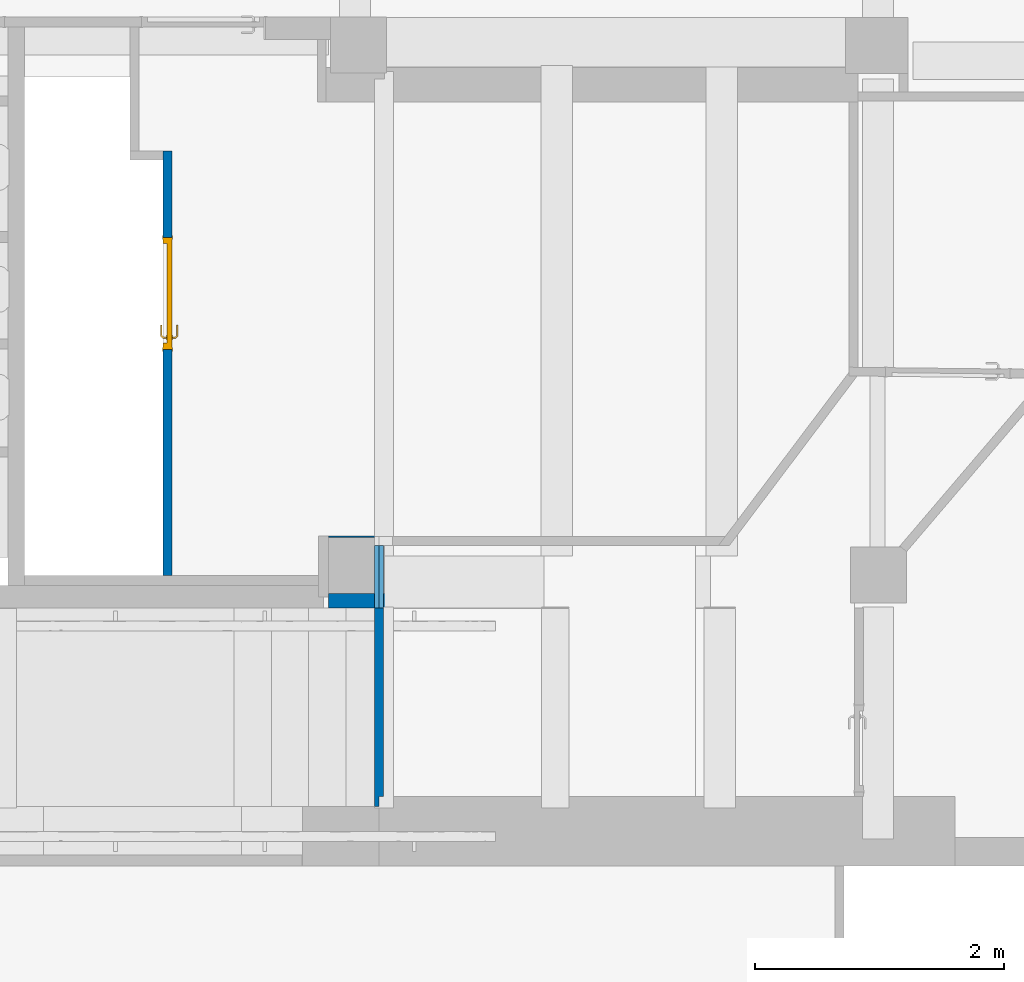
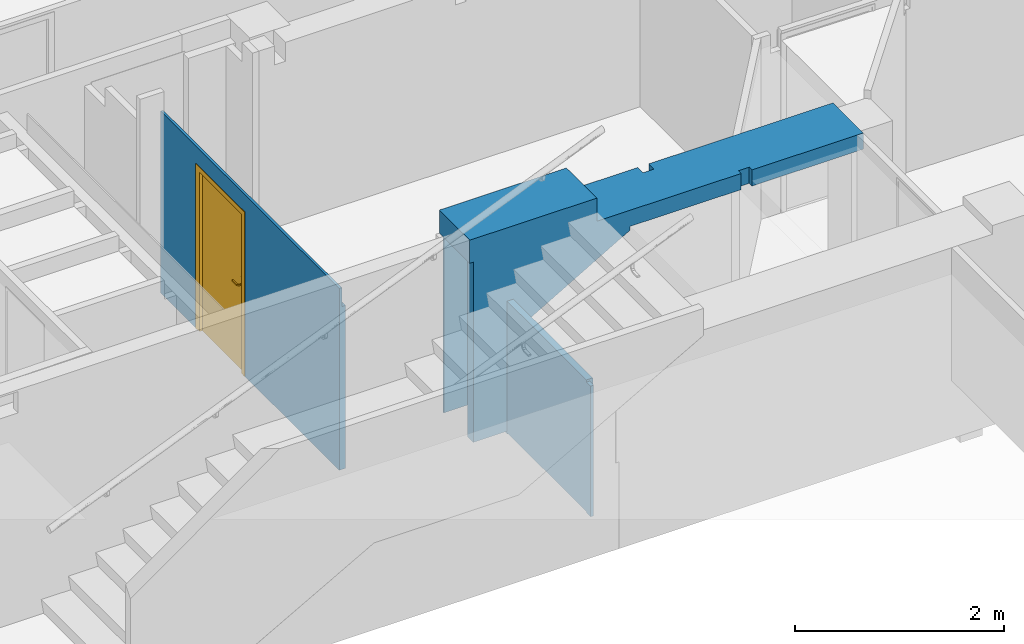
# One storey, part 20 of 32: 3 walls, 1 door, 1 opening.
"""IFC4 building model written with IfcOpenShell, lengths in metres."""

import ifcopenshell
import ifcopenshell.guid

model = None  # the IFC model being written
_history = None  # IfcOwnerHistory: only IFC2X3 demands one
_inside = {}  # id of a spatial element -> (the spatial element, [elements in it])
_under = {}  # id of a project, library or spatial element -> (it, [spatial elements below it])
_declared = {}  # id of a project -> (the project, [libraries it declares])
_typed = {}  # id of a type object -> (the type object, [elements of that type])
_made_of = {}  # id of a material, layer set ... -> (it, [elements and type objects made of it])


def new_model(schema):
    """Start an empty IFC model of exactly this schema.

    Asked for "IFC4X3", IfcOpenShell would pick the latest addendum, in which some entities
    have other attributes; the version numbers below select the first issue.
    IFC2X3 requires an IfcOwnerHistory on every rooted entity: one is made here for all.
    """
    global model, _history
    if schema == "IFC4X3":
        model = ifcopenshell.file(schema_version=(4, 3, 0, 0))
    else:
        model = ifcopenshell.file(schema=schema)
    _inside.clear()
    _under.clear()
    _declared.clear()
    _typed.clear()
    _made_of.clear()
    _history = None
    if model.schema == "IFC2X3":
        org = make("IfcOrganization", Name="unknown")
        user = make(
            "IfcPersonAndOrganization",
            ThePerson=make("IfcPerson", FamilyName="unknown"),
            TheOrganization=org,
        )
        app = make(
            "IfcApplication",
            ApplicationDeveloper=org,
            Version="unknown",
            ApplicationFullName="unknown",
            ApplicationIdentifier="unknown",
        )
        _history = make(
            "IfcOwnerHistory",
            OwningUser=user,
            OwningApplication=app,
            ChangeAction="ADDED",
            CreationDate=0,
        )
    return model


def make(cls, **values):
    """One entity of the class cls with the attributes given. An attribute that is None is left unset."""
    return model.create_entity(
        cls, **{name: value for name, value in values.items() if value is not None}
    )


def entity(cls, *values):
    """Any entity or typed value of the class cls, its attributes in the order of the schema. None: left unset."""
    e = model.create_entity(cls)
    for i, value in enumerate(values):
        if value is not None:
            e[i] = value
    return e


def rooted(cls, **values):
    """An entity with a GlobalId (a new one), such as an element, a storey or a relation."""
    return make(cls, GlobalId=ifcopenshell.guid.new(), OwnerHistory=_history, **values)


def si_unit(unit_type, name, prefix=None):
    """IfcSIUnit, for example si_unit("LENGTHUNIT", "METRE", prefix="MILLI")."""
    return make("IfcSIUnit", UnitType=unit_type, Prefix=prefix, Name=name)


def converted_unit(unit_type, name, factor, base, dimensions=None, offset=None):
    """IfcConversionBasedUnit, such as the inch: factor (a typed value) times the base unit."""
    return make(
        "IfcConversionBasedUnit"
        if offset is None
        else "IfcConversionBasedUnitWithOffset",
        ConversionOffset=offset,
        Dimensions=None
        if dimensions is None
        else entity("IfcDimensionalExponents", *dimensions),
        UnitType=unit_type,
        Name=name,
        ConversionFactor=make(
            "IfcMeasureWithUnit", ValueComponent=factor, UnitComponent=base
        ),
    )


def derived_unit(unit_type, elements):
    """IfcDerivedUnit: a product of units, each with its exponent."""
    return make(
        "IfcDerivedUnit",
        Elements=[
            make("IfcDerivedUnitElement", Unit=unit, Exponent=power)
            for unit, power in elements
        ],
        UnitType=unit_type,
    )


def assignment(units):
    """IfcUnitAssignment: the units of a project."""
    return None if units is None else make("IfcUnitAssignment", Units=units)


def point(xyz):
    """IfcCartesianPoint."""
    return None if xyz is None else make("IfcCartesianPoint", Coordinates=xyz)


def direction(xyz):
    """IfcDirection."""
    return None if xyz is None else make("IfcDirection", DirectionRatios=xyz)


def frame(location, z_axis=None, x_axis=None):
    """IfcAxis2Placement3D, a coordinate frame: its origin and axes. An axis left out is left unset."""
    return make(
        "IfcAxis2Placement3D",
        Location=point(location),
        Axis=direction(z_axis),
        RefDirection=direction(x_axis),
    )


def origin():
    """The frame at (0, 0, 0) with its axes left unset."""
    return frame((0.0, 0.0, 0.0))


def place(relative_to, where):
    """IfcLocalPlacement: puts the frame where relative to a parent placement (None: the world)."""
    return make(
        "IfcLocalPlacement", PlacementRelTo=relative_to, RelativePlacement=where
    )


def context(
    kind, dimensions, precision=None, world=None, true_north=None, identifier=None
):
    """IfcGeometricRepresentationContext, for example the 3D "Model" context."""
    return make(
        "IfcGeometricRepresentationContext",
        ContextIdentifier=identifier,
        ContextType=kind,
        CoordinateSpaceDimension=dimensions,
        Precision=precision,
        WorldCoordinateSystem=world,
        TrueNorth=true_north,
    )


def subcontext(parent, identifier, kind, view, scale=None):
    """IfcGeometricRepresentationSubContext, for example "Body" below "Model"."""
    return make(
        "IfcGeometricRepresentationSubContext",
        ContextIdentifier=identifier,
        ContextType=kind,
        ParentContext=parent,
        TargetScale=scale,
        TargetView=view,
    )


def project(units=None, contexts=None):
    """IfcProject with its units and contexts."""
    return rooted(
        "IfcProject",
        Name="project",
        RepresentationContexts=contexts,
        UnitsInContext=assignment(units),
    )


def spatial(cls, under=None, at=None, **own):
    """A site, building, storey or space (cls), placed at a placement, below another one or the project."""
    s = rooted(cls, ObjectPlacement=at, **own)
    if under is not None:
        _under.setdefault(under.id(), (under, []))[1].append(s)
    return s


def point_list(points):
    """IfcCartesianPointList2D or 3D."""
    cls = (
        "IfcCartesianPointList2D" if len(points[0]) == 2 else "IfcCartesianPointList3D"
    )
    return make(cls, CoordList=points)


def indexed_curve(points, segments=None, self_intersect=None):
    """IfcIndexedPolyCurve: lines and arcs through numbered points (the first is 1)."""
    return make(
        "IfcIndexedPolyCurve",
        Points=point_list(points),
        Segments=segments,
        SelfIntersect=self_intersect,
    )


def outline(outer, holes=None, kind="AREA"):
    """IfcArbitraryClosedProfileDef: a profile drawn as a closed curve; with holes, ...WithVoids."""
    if holes is None:
        return make("IfcArbitraryClosedProfileDef", ProfileType=kind, OuterCurve=outer)
    return make(
        "IfcArbitraryProfileDefWithVoids",
        ProfileType=kind,
        OuterCurve=outer,
        InnerCurves=holes,
    )


def extrude(swept, where, along, depth):
    """IfcExtrudedAreaSolid: the profile swept, set in the frame where, extruded along a direction by depth."""
    return make(
        "IfcExtrudedAreaSolid",
        SweptArea=swept,
        Position=where,
        ExtrudedDirection=direction(along),
        Depth=depth,
    )


def polygons(points, faces, closed=None, point_numbers=None):
    """IfcPolygonalFaceSet: a face is its outer loop, then its inner loops; points numbered from 1."""
    made = []
    for loops in faces:
        if len(loops) == 1:
            made.append(make("IfcIndexedPolygonalFace", CoordIndex=loops[0]))
        else:
            made.append(
                make(
                    "IfcIndexedPolygonalFaceWithVoids",
                    CoordIndex=loops[0],
                    InnerCoordIndices=loops[1:],
                )
            )
    return make(
        "IfcPolygonalFaceSet",
        Coordinates=point_list(points),
        Closed=closed,
        Faces=made,
        PnIndex=point_numbers,
    )


def shape(context_of_items, identifier, shape_type, items):
    """IfcShapeRepresentation: the items that make up one representation, for example the "Body"."""
    return make(
        "IfcShapeRepresentation",
        ContextOfItems=context_of_items,
        RepresentationIdentifier=identifier,
        RepresentationType=shape_type,
        Items=items,
    )


def source(mapping_origin, context_of_items, identifier, shape_type, items):
    """IfcRepresentationMap: a shape defined once, which mapped items show again and again."""
    return make(
        "IfcRepresentationMap",
        MappingOrigin=mapping_origin,
        MappedRepresentation=shape(context_of_items, identifier, shape_type, items),
    )


def transform(
    local_origin,
    x_axis=None,
    y_axis=None,
    z_axis=None,
    scale=None,
    scale2=None,
    scale3=None,
    uniform=True,
):
    """IfcCartesianTransformationOperator3D, or its non-uniform kind. x_axis, y_axis, z_axis: its Axis1, 2, 3."""
    if uniform:
        return make(
            "IfcCartesianTransformationOperator3D",
            Axis1=direction(x_axis),
            Axis2=direction(y_axis),
            LocalOrigin=point(local_origin),
            Scale=scale,
            Axis3=direction(z_axis),
        )
    return make(
        "IfcCartesianTransformationOperator3DnonUniform",
        Axis1=direction(x_axis),
        Axis2=direction(y_axis),
        LocalOrigin=point(local_origin),
        Scale=scale,
        Axis3=direction(z_axis),
        Scale2=scale2,
        Scale3=scale3,
    )


def mapped(mapping_source, mapping_target):
    """IfcMappedItem: shows the shape of a source again, moved by a transform."""
    return make(
        "IfcMappedItem", MappingSource=mapping_source, MappingTarget=mapping_target
    )


def material(Name=None, Category=None):
    """IfcMaterial."""
    return make("IfcMaterial", Name=Name, Category=Category)


def material_list(materials):
    """IfcMaterialList."""
    return make("IfcMaterialList", Materials=materials)


def layer(
    of_material, thickness, ventilated=None, Name=None, Category=None, Priority=None
):
    """IfcMaterialLayer: one layer of a wall or slab, of a material (None: an air gap)."""
    return make(
        "IfcMaterialLayer",
        Material=of_material,
        LayerThickness=thickness,
        IsVentilated=ventilated,
        Name=Name,
        Category=Category,
        Priority=Priority,
    )


def layer_set(layers, Name=None):
    """IfcMaterialLayerSet."""
    return make("IfcMaterialLayerSet", MaterialLayers=layers, LayerSetName=Name)


def constituent(of_material, Name=None, Category=None, fraction=None):
    """IfcMaterialConstituent: one of the materials an element consists of."""
    return make(
        "IfcMaterialConstituent",
        Name=Name,
        Material=of_material,
        Fraction=fraction,
        Category=Category,
    )


def constituent_set(constituents=None, Name=None):
    """IfcMaterialConstituentSet."""
    return make(
        "IfcMaterialConstituentSet", Name=Name, MaterialConstituents=constituents
    )


def made_of(thing, what):
    """Note that an element or type object is made of a material, layer set ...; save() writes the relation."""
    if what is not None:
        _made_of.setdefault(what.id(), (what, []))[1].append(thing)
    return thing


def type_object(cls, material=None, **own):
    """A type object (cls), such as IfcWallType, which elements share."""
    return made_of(rooted(cls, **own), material)


def type_shapes(of_type, sources):
    """Give a type object the sources (RepresentationMaps) that its elements show as mapped items."""
    of_type.RepresentationMaps = sources


def element(
    cls,
    number,
    at=None,
    inside=None,
    cuts=None,
    type_object=None,
    material=None,
    context=None,
    identifier="Body",
    shape_type=None,
    held_by="IfcProductDefinitionShape",
    body=None,
    shapes=None,
    **own,
):
    """One element of the class cls, such as IfcWall. Its Tag is "e" and its number.

    at: its placement. inside: the storey or other place that contains it. cuts: it is an
    opening in that element (IfcRelVoidsElement). A single representation is given by context,
    identifier, shape_type and body (its items); several are given by shapes. held_by: the class
    of the entity that holds the representations. save() writes the other relations.
    """
    e = rooted(cls, Tag="e%d" % number, ObjectPlacement=at, **own)
    if body is not None:
        shapes = [shape(context, identifier, shape_type, body)]
    if shapes is not None:
        e.Representation = make(held_by, Representations=shapes)
    if inside is not None:
        _inside.setdefault(inside.id(), (inside, []))[1].append(e)
    if cuts is not None:
        rooted(
            "IfcRelVoidsElement", RelatingBuildingElement=cuts, RelatedOpeningElement=e
        )
    if type_object is not None:
        _typed.setdefault(type_object.id(), (type_object, []))[1].append(e)
    return made_of(e, material)


def fill(opening, filler):
    """IfcRelFillsElement: the door or window that sits in an opening."""
    return rooted(
        "IfcRelFillsElement",
        RelatingOpeningElement=opening,
        RelatedBuildingElement=filler,
    )


def aggregate(whole, parts):
    """IfcRelAggregates: a whole, such as a stair, and the parts it consists of."""
    return rooted("IfcRelAggregates", RelatingObject=whole, RelatedObjects=parts)


def save(model, path):
    """Write the relations noted so far, then the file.

    IfcRelAggregates (storeys below a building ...), IfcRelContainedInSpatialStructure (elements
    in a storey), IfcRelDefinesByType, IfcRelAssociatesMaterial and IfcRelDeclares: one each for
    every whole, place, type object, material and project.
    """
    for whole, parts in _under.values():
        aggregate(whole, parts)
    for where, things in _inside.values():
        rooted(
            "IfcRelContainedInSpatialStructure",
            RelatedElements=things,
            RelatingStructure=where,
        )
    for kind, things in _typed.values():
        rooted("IfcRelDefinesByType", RelatedObjects=things, RelatingType=kind)
    for what, things in _made_of.values():
        rooted("IfcRelAssociatesMaterial", RelatedObjects=things, RelatingMaterial=what)
    for by, libraries in _declared.values():
        rooted("IfcRelDeclares", RelatingContext=by, RelatedDefinitions=libraries)
    model.write(path)


model = new_model("IFC4")

# Units and contexts
model_context = context("Model", 3, precision=1e-05, world=origin(), true_north=direction((6.12303176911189e-17, 1.0)))
body_context = subcontext(model_context, "Body", "Model", "MODEL_VIEW")
ifc_project = project(units=[si_unit("LENGTHUNIT", "METRE"), si_unit("AREAUNIT", "SQUARE_METRE"), si_unit("VOLUMEUNIT", "CUBIC_METRE"), converted_unit("PLANEANGLEUNIT", "DEGREE", entity("IfcRatioMeasure", 0.0174532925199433), si_unit("PLANEANGLEUNIT", "RADIAN"), dimensions=[0, 0, 0, 0, 0, 0, 0]), si_unit("MASSUNIT", "GRAM", prefix="KILO"), derived_unit("MASSDENSITYUNIT", [(si_unit("MASSUNIT", "GRAM", prefix="KILO"), 1), (si_unit("LENGTHUNIT", "METRE"), -3)]), derived_unit("MOMENTOFINERTIAUNIT", [(si_unit("LENGTHUNIT", "METRE"), 4)]), si_unit("TIMEUNIT", "SECOND"), si_unit("FREQUENCYUNIT", "HERTZ"), si_unit("THERMODYNAMICTEMPERATUREUNIT", "DEGREE_CELSIUS"), derived_unit("THERMALTRANSMITTANCEUNIT", [(si_unit("MASSUNIT", "GRAM", prefix="KILO"), 1), (si_unit("THERMODYNAMICTEMPERATUREUNIT", "KELVIN"), -1), (si_unit("TIMEUNIT", "SECOND"), -3)]), derived_unit("VOLUMETRICFLOWRATEUNIT", [(si_unit("LENGTHUNIT", "METRE"), 3), (si_unit("TIMEUNIT", "SECOND"), -1)]), si_unit("ELECTRICCURRENTUNIT", "AMPERE"), si_unit("ELECTRICVOLTAGEUNIT", "VOLT"), si_unit("POWERUNIT", "WATT"), si_unit("FORCEUNIT", "NEWTON", prefix="KILO"), si_unit("ILLUMINANCEUNIT", "LUX"), si_unit("LUMINOUSFLUXUNIT", "LUMEN"), si_unit("LUMINOUSINTENSITYUNIT", "CANDELA"), derived_unit("USERDEFINED", [(si_unit("MASSUNIT", "GRAM", prefix="KILO"), -1), (si_unit("LENGTHUNIT", "METRE"), -2), (si_unit("TIMEUNIT", "SECOND"), 3), (si_unit("LUMINOUSFLUXUNIT", "LUMEN"), 1)]), derived_unit("LINEARVELOCITYUNIT", [(si_unit("LENGTHUNIT", "METRE"), 1), (si_unit("TIMEUNIT", "SECOND"), -1)]), si_unit("PRESSUREUNIT", "PASCAL"), derived_unit("USERDEFINED", [(si_unit("LENGTHUNIT", "METRE"), -2), (si_unit("MASSUNIT", "GRAM", prefix="KILO"), 1), (si_unit("TIMEUNIT", "SECOND"), -2)]), derived_unit("LINEARFORCEUNIT", [(si_unit("MASSUNIT", "GRAM", prefix="KILO"), 1), (si_unit("LENGTHUNIT", "METRE"), 1), (si_unit("TIMEUNIT", "SECOND"), -2), (si_unit("LENGTHUNIT", "METRE"), -1)]), derived_unit("PLANARFORCEUNIT", [(si_unit("MASSUNIT", "GRAM", prefix="KILO"), 1), (si_unit("LENGTHUNIT", "METRE"), 1), (si_unit("TIMEUNIT", "SECOND"), -2), (si_unit("LENGTHUNIT", "METRE"), -2)])], contexts=[model_context])

# Site, building, storey
site_placement = place(None, origin())
site = spatial("IfcSite", under=ifc_project, at=site_placement, Name="Default", CompositionType="ELEMENT")
building_placement = place(site_placement, origin())
building = spatial("IfcBuilding", under=site, at=building_placement, Name="HOTEL CONSULAIRE BOULOGNE SUR MER", CompositionType="ELEMENT")
storey_placement = place(building_placement, frame((0.0, 0.0, -2.70343668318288)))
storey = spatial("IfcBuildingStorey", under=building, at=storey_placement, Name="SS1", CompositionType="ELEMENT", Elevation=-2.70343668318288)

# Wall, opening, door
ifc_material_1 = material(Name="Mur par défaut", Category="Divers")
ifc_layer_1 = layer(ifc_material_1, 0.07, Name="Mur par défaut", Category="Divers")
ifc_layer_set_1 = layer_set([ifc_layer_1], Name="Mur de base:Générique - Int. 70 mm")
wall_type_1 = type_object("IfcWallType", Name="Mur de base:Générique - Int. 70 mm", PredefinedType="NOTDEFINED", material=ifc_layer_set_1)
wall_1_placement = place(storey_placement, frame((1.45277280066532, -19.8349143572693, 0.313990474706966), z_axis=(0.0, 0.0, 1.0), x_axis=(0.0, 1.0, 0.0)))
wall_1 = element("IfcWall", 1, at=wall_1_placement, inside=storey, type_object=wall_type_1, material=ifc_layer_set_1, Name="Mur de base:Générique - Int. 70 mm", ObjectType="Mur de base:Générique - Int. 70 mm", PredefinedType="NOTDEFINED", context=body_context, shape_type="Tessellation", body=[
    polygons([(2.71800454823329, -0.0350000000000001, 1.89944620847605), (3.4130045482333, -0.0350000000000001, 1.89944620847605), (3.4130045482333, 0.00723263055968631, 1.89944620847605), (2.71800454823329, 0.00723263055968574, 1.89944620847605), (3.4130045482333, -0.0350000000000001, 0.0), (2.71800454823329, -0.0350000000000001, 0.0), (2.71800454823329, 0.0350000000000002, 0.0), (3.34300454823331, 0.0350000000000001, 0.0), (3.4130045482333, 0.0350000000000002, 0.0), (0.0, -0.0350000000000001, 0.0), (1.81800454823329, -0.0350000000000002, 9.52529303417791e-06), (1.81800454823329, -0.0350000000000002, 1.89944620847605), (0.0, -0.0350000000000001, 1.89944620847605), (2.71800454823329, 0.0349999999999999, 1.90500952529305), (1.81800454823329, 0.0349999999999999, 1.90500952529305), (1.81800454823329, 0.0349999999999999, 0.0), (0.0, 0.0349999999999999, 0.0), (0.0, 0.0349999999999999, 2.11944620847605), (3.4130045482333, 0.035, 2.11944620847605), (3.4130045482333, 0.00723263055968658, 2.11944620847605), (0.0, 0.00723263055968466, 1.89944620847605), (0.0, 0.00723263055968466, 2.11944620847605), (2.71800454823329, 0.00723263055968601, 1.90500952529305), (1.81800454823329, 0.00723263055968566, 1.90500952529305), (1.81800454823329, 0.00723263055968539, 1.89944620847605)], [[[3, 4, 1, 2]], [[25, 21, 13, 12]], [[20, 19, 18, 22]], [[8, 9, 5, 6, 7]], [[15, 14, 23, 24]], [[16, 10, 17]], [[1, 6, 5, 2]], [[13, 10, 11, 12]], [[22, 21, 25, 24, 23, 4, 3, 20]], [[9, 8, 7, 14, 15, 16, 17, 18, 19]], [[5, 9, 19, 20, 3, 2]], [[25, 12, 11, 16, 15, 24]], [[13, 21, 22, 18, 17, 10]], [[23, 14, 7, 6, 1, 4]], [[10, 16, 11]]], closed=True),
])
opening_placement = place(wall_1_placement, frame((2.71800454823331, 0.0349999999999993, 9.52529303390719e-06)))
opening = element("IfcOpeningElement", 2, at=opening_placement, cuts=wall_1, Name="Int. Simple:0.83x1.87:1", ObjectType="Opening", PredefinedType="OPENING", context=body_context, shape_type="SweptSolid", body=[
    extrude(outline(indexed_curve([(0.0, 2.05744754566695e-14), (1.90500000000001, 2.05744754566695e-14), (1.90500000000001, 0.900000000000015), (0.0, 0.900000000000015), (0.0, 2.05744754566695e-14)], self_intersect=False)), frame((0.0, 0.0, 0.0), z_axis=(0.0, -1.0, 0.0), x_axis=(0.0, 0.0, 1.0)), (0.0, 0.0, 1.0), 0.07),
])
ifc_material_2 = material(Name="Finition Peinture - Blanc satiné", Category="Peinture")
ifc_constituent_1 = constituent(ifc_material_2, Name="Finition Peinture - Blanc satiné", Category="Matériaux")
ifc_material_3 = material(Name="Bois - Panneau de porte", Category="Bois")
ifc_constituent_2 = constituent(ifc_material_3, Name="Bois - Panneau de porte", Category="Matériaux")
ifc_material_4 = material(Name="Bois - Cadre de porte", Category="Bois")
ifc_constituent_3 = constituent(ifc_material_4, Name="Bois - Cadre de porte", Category="Matériaux")
ifc_constituent_set = constituent_set(constituents=[ifc_constituent_1, ifc_constituent_2, ifc_constituent_3], Name="MaterialConstituentSet")
ifc_material_list = material_list([ifc_material_3, ifc_material_2, ifc_material_4, ifc_material_4])
door_type = type_object("IfcDoorType", Name="Int. Simple:0.83x1.87", OperationType="NOTDEFINED", PredefinedType="DOOR", material=ifc_material_list)
shared_shape = source(origin(), body_context, "Body", "Tessellation", [
    polygons([(0.0750000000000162, -0.00500000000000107, 0.870000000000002), (0.0846472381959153, -0.00500000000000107, 0.866003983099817), (0.095000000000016, -0.00500000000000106, 0.86464101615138), (0.105352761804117, -0.00500000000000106, 0.866003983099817), (0.115000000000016, -0.00500000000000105, 0.870000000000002), (0.115000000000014, -0.00500000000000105, 1.08), (0.105352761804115, -0.00500000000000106, 1.08399601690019), (0.0950000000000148, -0.00500000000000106, 1.08535898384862), (0.084647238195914, -0.00500000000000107, 1.08399601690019), (0.075000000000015, -0.00500000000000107, 1.08), (0.0750000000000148, -1.06594733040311e-15, 0.870000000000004), (0.075000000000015, -1.06594733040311e-15, 1.08), (0.084647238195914, -1.06171738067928e-15, 1.08399601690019), (0.0950000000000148, -1.05748743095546e-15, 1.08535898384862), (0.105352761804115, -1.05325748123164e-15, 1.08399601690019), (0.115000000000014, -1.04902753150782e-15, 1.08), (0.115000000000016, -1.04902753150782e-15, 0.870000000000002), (0.105352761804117, -1.05325748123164e-15, 0.866003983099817), (0.095000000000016, -1.05748743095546e-15, 0.86464101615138), (0.0846472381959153, -1.06171738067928e-15, 0.866003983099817)], [[[4, 5, 6, 7, 8, 9, 10, 1, 2, 3]], [[15, 16, 17, 18, 19, 20, 11, 12, 13, 14]], [[11, 20, 2, 1]], [[2, 20, 19, 3]], [[19, 18, 4, 3]], [[18, 17, 5, 4]], [[6, 5, 17, 16]], [[16, 15, 7, 6]], [[7, 15, 14, 8]], [[14, 13, 9, 8]], [[13, 12, 10, 9]], [[1, 10, 12, 11]]], closed=True),
    polygons([(0.115000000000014, 0.0399999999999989, 1.08), (0.105352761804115, 0.0399999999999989, 1.08399601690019), (0.0950000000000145, 0.0399999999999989, 1.08535898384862), (0.0846472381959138, 0.0399999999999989, 1.08399601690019), (0.0750000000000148, 0.0399999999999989, 1.08), (0.0750000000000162, 0.0399999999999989, 0.870000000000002), (0.0846472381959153, 0.0399999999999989, 0.866003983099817), (0.0950000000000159, 0.0399999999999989, 0.86464101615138), (0.105352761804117, 0.0399999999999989, 0.866003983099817), (0.115000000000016, 0.0399999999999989, 0.870000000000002), (0.115000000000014, 0.0449999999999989, 1.08), (0.115000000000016, 0.0449999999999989, 0.870000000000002), (0.105352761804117, 0.0449999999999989, 0.866003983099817), (0.0950000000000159, 0.0449999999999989, 0.86464101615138), (0.0846472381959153, 0.0449999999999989, 0.866003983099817), (0.0750000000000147, 0.0449999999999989, 0.870000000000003), (0.0750000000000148, 0.0449999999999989, 1.08), (0.0846472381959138, 0.0449999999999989, 1.08399601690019), (0.0950000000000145, 0.0449999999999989, 1.08535898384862), (0.105352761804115, 0.0449999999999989, 1.08399601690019)], [[[9, 10, 1, 2, 3, 4, 5, 6, 7, 8]], [[20, 11, 12, 13, 14, 15, 16, 17, 18, 19]], [[11, 20, 2, 1]], [[2, 20, 19, 3]], [[19, 18, 4, 3]], [[18, 17, 5, 4]], [[6, 5, 17, 16]], [[16, 15, 7, 6]], [[7, 15, 14, 8]], [[14, 13, 9, 8]], [[13, 12, 10, 9]], [[1, 10, 12, 11]]], closed=True),
    polygons([(0.088999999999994, -0.00500000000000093, 1.007), (0.092974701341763, -0.00500000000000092, 1.00778044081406), (0.0970252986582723, -0.0050000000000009, 1.00778044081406), (0.101000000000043, -0.00500000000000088, 1.00699999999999), (0.101000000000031, -0.00500000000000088, 0.993000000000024), (0.0970252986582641, -0.0050000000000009, 0.992219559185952), (0.0929747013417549, -0.00500000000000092, 0.99221955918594), (0.0889999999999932, -0.00500000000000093, 0.992999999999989), (0.0889999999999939, -0.0326509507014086, 1.007), (0.0929747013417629, -0.0310045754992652, 1.00778044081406), (0.0970252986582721, -0.0293267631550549, 1.00778044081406), (0.101000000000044, -0.0276803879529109, 1.007), (0.101000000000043, -0.0276803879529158, 0.993000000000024), (0.0970252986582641, -0.0293267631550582, 0.992219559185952), (0.092974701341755, -0.0310045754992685, 0.99221955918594), (0.0889999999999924, -0.0326509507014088, 0.992999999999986), (0.107377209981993, -0.0510281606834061, 1.007), (0.109023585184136, -0.0470534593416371, 1.00778044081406), (0.110701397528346, -0.0430028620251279, 1.00778044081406), (0.112347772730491, -0.0390281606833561, 1.007), (0.112347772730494, -0.0390281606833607, 0.993000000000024), (0.110701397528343, -0.0430028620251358, 0.992219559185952), (0.109023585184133, -0.0470534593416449, 0.99221955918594), (0.107377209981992, -0.0510281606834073, 0.992999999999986), (0.195018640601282, -0.0510281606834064, 1.00699999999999), (0.195018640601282, -0.0510281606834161, 0.992999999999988), (0.195018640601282, -0.0470534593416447, 0.99221955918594), (0.195018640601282, -0.0430028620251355, 0.992219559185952), (0.195018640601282, -0.039028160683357, 0.993000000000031), (0.195018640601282, -0.0390281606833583, 1.007), (0.195018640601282, -0.0430028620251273, 1.00778044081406), (0.195018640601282, -0.0470534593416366, 1.00778044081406), (0.147307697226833, -0.0510281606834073, 1.007), (0.152860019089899, -0.045028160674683, 1.0078786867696), (0.153683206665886, -0.039028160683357, 1.007), (0.147307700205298, -0.0510281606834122, 0.992999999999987), (0.152860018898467, -0.0450281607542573, 0.992121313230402), (0.153683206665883, -0.039028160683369, 0.993000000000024)], [[[2, 3, 4, 5, 6, 7, 8, 1]], [[21, 20, 35, 30, 29, 38]], [[9, 10, 2, 1]], [[10, 18, 19, 11, 3, 2]], [[11, 12, 4, 3]], [[5, 4, 12, 13]], [[26, 27, 28, 29, 30, 31, 32, 25]], [[13, 14, 6, 5]], [[14, 22, 23, 15, 7, 6]], [[15, 16, 8, 7]], [[1, 8, 16, 9]], [[17, 18, 10, 9]], [[19, 20, 12, 11]], [[13, 12, 20, 21]], [[21, 22, 14, 13]], [[23, 24, 16, 15]], [[9, 16, 24, 17]], [[33, 32, 34]], [[25, 32, 33]], [[18, 17, 33]], [[34, 35, 19]], [[20, 19, 35]], [[35, 31, 30]], [[32, 31, 34]], [[31, 35, 34]], [[18, 33, 34]], [[18, 34, 19]], [[38, 28, 37]], [[36, 37, 27]], [[21, 38, 22]], [[38, 29, 28]], [[26, 36, 27]], [[24, 23, 36]], [[36, 23, 37]], [[23, 22, 37]], [[22, 38, 37]], [[27, 37, 28]], [[17, 24, 36, 26, 25, 33]]], closed=True),
    polygons([(0.101000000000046, 0.0449999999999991, 0.993000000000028), (0.101000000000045, 0.0449999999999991, 1.007), (0.0970252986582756, 0.0449999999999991, 1.00778044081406), (0.0929747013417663, 0.0449999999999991, 1.00778044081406), (0.0889999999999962, 0.044999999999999, 1.007), (0.0889999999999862, 0.044999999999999, 0.992999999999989), (0.0929747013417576, 0.0449999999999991, 0.99221955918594), (0.0970252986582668, 0.0449999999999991, 0.992219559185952), (0.101000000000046, 0.067485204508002, 0.993000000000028), (0.101000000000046, 0.0674852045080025, 1.007), (0.0970252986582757, 0.0691315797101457, 1.00778044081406), (0.0929747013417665, 0.070809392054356, 1.00778044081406), (0.0889999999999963, 0.0724557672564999, 1.007), (0.0889999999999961, 0.072455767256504, 0.992999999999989), (0.0929747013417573, 0.0708093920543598, 0.99221955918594), (0.0970252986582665, 0.0691315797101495, 0.992219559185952), (0.112485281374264, 0.0789704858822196, 0.993000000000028), (0.112485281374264, 0.0789704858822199, 1.007), (0.110838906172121, 0.0829451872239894, 1.00778044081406), (0.10916109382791, 0.0869957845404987, 1.00778044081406), (0.107514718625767, 0.0909704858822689, 1.007), (0.10751471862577, 0.090970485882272, 0.992999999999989), (0.109161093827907, 0.0869957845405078, 0.99221955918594), (0.110838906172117, 0.0829451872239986, 0.992219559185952), (0.19504578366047, 0.0789704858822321, 0.993000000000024), (0.19504578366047, 0.0829451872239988, 0.992219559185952), (0.19504578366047, 0.086995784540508, 0.99221955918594), (0.19504578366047, 0.0909704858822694, 0.992999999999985), (0.19504578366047, 0.0909704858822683, 1.007), (0.19504578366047, 0.0869957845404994, 1.00778044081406), (0.19504578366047, 0.0829451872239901, 1.00778044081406), (0.19504578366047, 0.0789704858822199, 1.007), (0.147445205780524, 0.0909704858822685, 1.007), (0.15294234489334, 0.0849704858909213, 1.0078786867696), (0.153765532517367, 0.0789704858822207, 1.007), (0.147445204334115, 0.0909704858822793, 0.992999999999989), (0.152942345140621, 0.0849704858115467, 0.992121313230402), (0.153765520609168, 0.0789704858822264, 0.993000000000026)], [[[4, 5, 6, 7, 8, 1, 2, 3]], [[18, 17, 38, 25, 32, 35]], [[2, 1, 9, 10]], [[25, 26, 27, 28, 29, 30, 31, 32]], [[10, 11, 3, 2]], [[11, 19, 20, 12, 4, 3]], [[12, 13, 5, 4]], [[6, 5, 13, 14]], [[14, 15, 7, 6]], [[15, 23, 24, 16, 8, 7]], [[16, 9, 1, 8]], [[10, 9, 17, 18]], [[18, 19, 11, 10]], [[20, 21, 13, 12]], [[14, 13, 21, 22]], [[22, 23, 15, 14]], [[24, 17, 9, 16]], [[35, 31, 34]], [[33, 34, 30]], [[18, 35, 19]], [[35, 32, 31]], [[29, 33, 30]], [[21, 20, 33]], [[33, 20, 34]], [[20, 19, 34]], [[19, 35, 34]], [[30, 34, 31]], [[21, 33, 29, 28, 36, 22]], [[36, 27, 37]], [[28, 27, 36]], [[23, 22, 36]], [[37, 38, 24]], [[17, 24, 38]], [[38, 26, 25]], [[27, 26, 37]], [[26, 38, 37]], [[23, 36, 37]], [[23, 37, 24]]], closed=True),
    polygons([(0.0350000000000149, 0.0400000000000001, 1.87), (0.865000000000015, 0.0400000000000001, 1.87), (0.865000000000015, 0.0400000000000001, 0.0), (0.0350000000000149, 0.0400000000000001, 0.0), (0.0350000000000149, 6.76791955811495e-17, 1.87), (0.0350000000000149, 6.76791955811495e-17, 0.0), (0.865000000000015, 6.76791955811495e-17, 0.0), (0.865000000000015, 6.76791955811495e-17, 1.87)], [[[4, 1, 2, 3]], [[7, 8, 5, 6]], [[2, 1, 5, 8]], [[3, 2, 8, 7]], [[4, 3, 7, 6]], [[1, 4, 6, 5]]], closed=True),
    polygons([(-1.57015733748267e-14, 4.22994972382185e-18, 0.0), (-1.57015733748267e-14, 0.0699999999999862, 0.0), (0.0500000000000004, 0.0699999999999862, 0.0), (0.0500000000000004, 0.04, 0.0), (0.0349999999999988, 0.04, 0.0), (0.0349999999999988, 4.22994972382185e-18, 0.0), (-1.56338941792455e-14, 4.22994972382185e-18, 1.90500000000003), (-1.56338941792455e-14, 0.0699999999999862, 1.90500000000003), (0.900000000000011, 0.0699999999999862, 1.90500000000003), (0.900000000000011, 0.0699999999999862, -3.14461027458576e-24), (0.849999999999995, 0.0699999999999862, -3.64224158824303e-24), (0.849999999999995, 0.0699999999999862, 1.85500000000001), (0.0500000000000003, 0.0699999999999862, 1.85500000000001), (0.0500000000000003, 0.04, 1.85500000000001), (0.849999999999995, 0.04, 1.85500000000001), (0.849999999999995, 0.04, 1.4135249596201e-25), (0.864999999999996, 0.04, -5.87158573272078e-25), (0.864999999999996, 0.04, 1.87000000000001), (0.0349999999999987, 0.04, 1.87000000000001), (0.0349999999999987, 4.22994972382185e-18, 1.87000000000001), (0.864999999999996, 4.22994972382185e-18, 1.87000000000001), (0.864999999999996, 4.22994972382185e-18, -1.55319637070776e-24), (0.900000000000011, 4.22994972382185e-18, 2.99853097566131e-24), (0.900000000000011, 4.22994972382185e-18, 1.90500000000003)], [[[5, 6, 1, 2, 3, 4]], [[16, 11, 10, 23, 22, 17]], [[14, 13, 12, 15]], [[20, 19, 18, 21]], [[2, 1, 7, 8]], [[15, 12, 11, 16]], [[21, 18, 17, 22]], [[3, 2, 8, 9, 10, 11, 12, 13]], [[4, 3, 13, 14]], [[6, 5, 19, 20]], [[9, 24, 23, 10]], [[16, 17, 18, 19, 5, 4, 14, 15]], [[22, 23, 24, 7, 1, 6, 20, 21]], [[8, 7, 24, 9]]], closed=True),
    polygons([(0.0149999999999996, 0.0699999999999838, 0.0), (-0.0150000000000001, 0.0699999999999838, 0.0), (-0.0150000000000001, 0.0749999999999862, 0.0), (0.0149999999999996, 0.0749999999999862, 0.0), (0.0149999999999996, 0.0699999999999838, 1.89000000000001), (0.884999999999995, 0.0699999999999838, 1.89000000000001), (0.884999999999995, 0.0699999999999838, -3.20159026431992e-25), (0.914999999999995, 0.0699999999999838, -1.92095749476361e-25), (0.914999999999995, 0.0699999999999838, 1.92000000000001), (-0.0150000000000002, 0.0699999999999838, 1.92000000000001), (-0.0150000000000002, 0.0749999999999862, 1.92000000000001), (0.914999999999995, 0.0749999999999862, 1.92000000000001), (0.914999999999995, 0.0749999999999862, -4.03399520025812e-24), (0.884999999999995, 0.0749999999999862, -4.03399516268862e-24), (0.884999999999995, 0.0749999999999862, 1.89000000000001), (0.0149999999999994, 0.0749999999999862, 1.89000000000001)], [[[2, 3, 4, 1]], [[14, 13, 8, 7]], [[5, 16, 15, 6]], [[7, 8, 9, 10, 2, 1, 5, 6]], [[3, 2, 10, 11]], [[6, 15, 14, 7]], [[4, 3, 11, 12, 13, 14, 15, 16]], [[1, 4, 16, 5]], [[12, 9, 8, 13]], [[11, 10, 9, 12]]], closed=True),
    polygons([(0.884999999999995, -0.00499999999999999, 0.0), (0.884999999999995, -8.2484019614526e-16, 0.0), (0.914999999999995, -8.2484019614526e-16, 0.0), (0.914999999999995, -0.00499999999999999, 0.0), (0.0149999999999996, -0.00499999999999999, 0.0), (-0.0150000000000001, -0.00499999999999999, 0.0), (-0.0150000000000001, -8.2484019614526e-16, 0.0), (0.0149999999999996, -8.2484019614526e-16, 0.0), (0.0149999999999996, -0.00499999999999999, 1.89000000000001), (0.884999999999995, -0.00499999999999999, 1.89000000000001), (0.914999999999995, -0.00499999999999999, 1.92000000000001), (-0.0150000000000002, -0.00499999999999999, 1.92000000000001), (-0.0150000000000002, -8.2484019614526e-16, 1.92000000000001), (0.914999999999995, -8.2484019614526e-16, 1.92000000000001), (0.884999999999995, -8.2484019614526e-16, 1.89000000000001), (0.0149999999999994, -8.2484019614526e-16, 1.89000000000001)], [[[2, 3, 4, 1]], [[6, 7, 8, 5]], [[9, 16, 15, 10]], [[1, 4, 11, 12, 6, 5, 9, 10]], [[7, 6, 12, 13]], [[10, 15, 2, 1]], [[8, 7, 13, 14, 3, 2, 15, 16]], [[5, 8, 16, 9]], [[14, 11, 4, 3]], [[13, 12, 11, 14]]], closed=True),
])
type_shapes(door_type, [shared_shape])
door_placement = place(opening_placement, frame((-0.900000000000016, -0.0700000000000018, 0.0)))
door = element("IfcDoor", 3, at=door_placement, inside=storey, type_object=door_type, material=ifc_constituent_set, Name="Int. Simple:0.83x1.87", ObjectType="Int. Simple:0.83x1.87", OperationType="NOTDEFINED", OverallHeight=1.90500000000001, OverallWidth=0.900000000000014, PredefinedType="DOOR", context=body_context, shape_type="MappedRepresentation", body=[
    mapped(shared_shape, transform((0.0, 0.0, 0.0), scale=1.0)),
])
fill(opening, door)

# Walls
wall_2_placement = place(storey_placement, frame((3.15284106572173, -19.5913240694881, 0.299999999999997), z_axis=(0.0, 0.0, 1.0), x_axis=(0.0, -1.0, 0.0)))
element("IfcWall", 4, at=wall_2_placement, inside=storey, type_object=wall_type_1, material=ifc_layer_set_1, Name="Mur de base:Générique - Int. 70 mm", ObjectType="Mur de base:Générique - Int. 70 mm", PredefinedType="NOTDEFINED", context=body_context, shape_type="Tessellation", body=[
    polygons([(2.01905368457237, 1.47180945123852e-15, 2.70716782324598e-16), (2.09789498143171, 1.58384612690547e-15, 2.70716782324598e-16), (2.09789498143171, -0.0349999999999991, 2.70716782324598e-16), (2.01905368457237, -0.0349999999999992, 2.70716782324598e-16), (2.01905368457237, -0.0349999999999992, 1.54861271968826), (0.503590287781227, -0.0349999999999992, 1.54861271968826), (0.503590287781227, -0.0349999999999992, 1.15366985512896), (0.503590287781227, -0.0349999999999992, 0.0321672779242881), (0.0, -0.0349999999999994, 0.0321672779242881), (0.0, -0.0349999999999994, 2.70716782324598e-16), (0.503590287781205, -0.0349999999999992, 2.70716782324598e-16), (0.503590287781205, -0.0349999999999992, 0.0139904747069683), (2.01905368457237, -0.0349999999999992, 0.0139904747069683), (2.09789498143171, -0.0349999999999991, 1.52368240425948), (2.01905368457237, -0.0349999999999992, 1.52368240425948), (0.503590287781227, 0.0350000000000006, 1.54861271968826), (2.01905368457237, 0.0350000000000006, 1.54861271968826), (2.01905368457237, 0.0350000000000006, 1.52368240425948), (2.01905368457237, 0.0350000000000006, 0.0139904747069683), (0.503590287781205, 0.0350000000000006, 0.0139904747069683), (0.503590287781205, 0.0350000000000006, 2.70716782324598e-16), (0.0, 0.0350000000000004, 2.70716782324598e-16), (0.0, 0.0350000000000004, 0.0321672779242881), (0.0, 0.0350000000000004, 1.15366985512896), (0.503590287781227, 0.0350000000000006, 1.15366985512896), (2.01905368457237, 1.47180945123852e-15, 0.0139904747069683), (2.01905368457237, 1.47180945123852e-15, 0.921718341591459), (2.01905368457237, 1.47180945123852e-15, 1.52368240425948), (2.09789498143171, 1.58384612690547e-15, 1.52368240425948), (0.0, 2.2695309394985e-16, 0.0321672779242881), (0.503590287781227, -1.22315897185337e-15, 1.15366985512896), (0.503590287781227, -1.22315897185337e-15, 1.13323690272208), (0.503590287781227, -1.22315897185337e-15, 0.0321672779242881), (0.388197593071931, -8.45703099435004e-16, 0.0321672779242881), (0.0, 2.2695309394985e-16, 1.15366985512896), (0.0, 2.2695309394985e-16, 1.13323690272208)], [[[3, 4, 1, 2]], [[11, 10, 22, 21]], [[26, 13, 12, 20, 19]], [[10, 11, 12, 13, 4, 3, 14, 15, 5, 6, 7, 8, 9]], [[36, 30, 34, 33, 32, 31, 35]], [[19, 20, 21, 22, 23, 24, 25, 16, 17, 18]], [[29, 2, 1, 26, 27, 28]], [[6, 5, 17, 16]], [[15, 14, 29, 28]], [[9, 8, 33, 34, 30]], [[35, 31, 25, 24]], [[27, 26, 19, 18, 17, 5, 15, 28]], [[14, 3, 2, 29]], [[20, 12, 11, 21]], [[30, 36, 35, 24, 23, 22, 10, 9]], [[32, 33, 8, 7, 6, 16, 25, 31]], [[26, 1, 4, 13]]], closed=True),
])
ifc_layer_2 = layer(ifc_material_1, 0.58, Name="Mur par défaut", Category="Divers")
ifc_layer_set_2 = layer_set([ifc_layer_2], Name="Mur de base:Générique - Int.580")
wall_type_2 = type_object("IfcWallType", Name="Mur de base:Générique - Int.580", PredefinedType="NOTDEFINED", material=ifc_layer_set_2)
wall_3_placement = place(storey_placement, frame((2.70617677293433, -19.8049143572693, 0.332167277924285)))
element("IfcWall", 5, at=wall_3_placement, inside=storey, type_object=wall_type_2, material=ifc_layer_set_2, Name="Mur de base:Générique - Int.580", ObjectType="Mur de base:Générique - Int.580", PredefinedType="NOTDEFINED", context=body_context, shape_type="Tessellation", body=[
    polygons([(4.34075009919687, -0.289999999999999, 1.91280310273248), (4.34075009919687, -0.289999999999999, 2.10126940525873), (4.27075009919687, -0.289999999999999, 2.10126940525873), (3.11159681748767, -0.289999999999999, 2.10126940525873), (3.11159681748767, -0.289999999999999, 1.91280310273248), (0.44666429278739, 0.289999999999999, 0.0), (0.0400000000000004, 0.289999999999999, 0.0), (0.0400000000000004, 0.289999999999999, 2.10126940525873), (8.72015810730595e-16, 0.289999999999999, 2.10126940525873), (8.72015810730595e-16, 0.289999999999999, 2.37126940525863), (1.401, 0.289999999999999, 2.37126940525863), (1.401, 0.289999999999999, 2.10126940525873), (2.18857166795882, 0.289999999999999, 2.10126940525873), (2.18857166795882, 0.289999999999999, 1.91280310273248), (1.76770159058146, 0.289999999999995, 1.91280310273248), (1.76770159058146, 0.289999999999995, 1.86879019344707), (0.44666429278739, 0.289999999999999, 1.10106962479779), (0.44666429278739, 0.283590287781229, 0.0), (0.44666429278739, 0.275392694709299, 0.0), (0.0400000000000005, 0.275392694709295, 0.0), (0.44666429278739, 0.283590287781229, 1.10106962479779), (0.44666429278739, 0.275392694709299, 1.10106962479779), (0.0400000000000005, 0.275392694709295, 2.10126940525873), (0.040000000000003, -0.289999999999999, 0.0), (0.411664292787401, -0.290000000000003, 0.0), (0.44666429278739, -0.289999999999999, 0.0), (0.44666429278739, -0.289999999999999, 1.10106962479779), (1.76770159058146, -0.290000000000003, 1.86879019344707), (1.76770159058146, -0.290000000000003, 1.91280310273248), (2.99159681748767, -0.289999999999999, 1.91280310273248), (2.99159681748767, -0.289999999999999, 2.10126940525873), (1.401, -0.289999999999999, 2.10126940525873), (1.401, -0.289999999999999, 2.37126940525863), (6.8029308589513e-16, -0.289999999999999, 2.37126940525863), (6.8029308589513e-16, -0.289999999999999, 2.10126940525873), (0.040000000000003, -0.289999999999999, 2.10126940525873), (2.30857166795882, 0.289999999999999, 2.10126940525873), (4.34075009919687, 0.289999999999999, 2.10126940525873), (4.34075009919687, 0.289999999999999, 1.91280310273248), (2.30857166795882, 0.289999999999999, 1.91280310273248), (0.490000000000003, -0.174607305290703, 2.10126940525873), (0.49, 0.275392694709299, 2.10126940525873), (0.49, 0.275392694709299, 1.12625416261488), (0.490000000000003, -0.174607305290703, 1.12625416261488), (0.0400000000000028, -0.174607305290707, 2.10126940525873), (0.44666429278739, -0.174607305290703, 1.10106962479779), (0.446664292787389, -0.174607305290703, 0.0), (0.0400000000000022, -0.174607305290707, 0.0), (2.99159681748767, -0.236674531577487, 2.10126940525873), (3.11159681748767, -0.236674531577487, 2.10126940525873), (2.30857166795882, 0.188481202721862, 2.10126940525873), (2.18857166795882, 0.188481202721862, 2.10126940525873), (1.76770159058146, 0.283590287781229, 1.86879019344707), (1.76770159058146, 0.213590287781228, 1.86879019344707), (1.76770159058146, 0.283590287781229, 1.91280310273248), (1.76770159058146, 0.213590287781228, 1.91280310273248), (2.18857166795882, 0.188481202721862, 1.91280310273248), (2.30857166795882, 0.188481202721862, 1.91280310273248), (3.11159681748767, -0.236674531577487, 1.91280310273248), (2.99159681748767, -0.236674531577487, 1.91280310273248), (6.46442627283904e-16, -0.110000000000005, 2.37126940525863), (0.0400000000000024, -0.200000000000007, 2.10126940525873)], [[[4, 5, 1, 2, 3]], [[27, 28, 29, 30, 31, 32, 33, 34, 35, 36, 24, 25, 26]], [[43, 42, 23, 20, 19, 22]], [[59, 50, 49, 60]], [[15, 16, 17, 6, 7, 8, 9, 10, 11, 12, 13, 14]], [[38, 39, 40, 37]], [[44, 46, 47, 48, 45, 41]], [[51, 58, 57, 52]], [[19, 20, 7, 6, 18]], [[25, 24, 48, 47, 26]], [[29, 56, 55, 15, 14, 57, 58, 40, 39, 1, 5, 59, 60, 30]], [[35, 9, 8, 23, 42, 41, 45, 62, 36]], [[22, 19, 18, 6, 17, 21]], [[27, 26, 47, 46]], [[28, 54, 53, 16, 15, 55, 56, 29]], [[33, 32, 12, 11]], [[52, 57, 14, 13]], [[31, 30, 60, 49]], [[2, 1, 39, 38]], [[7, 20, 23, 8]], [[44, 41, 42, 43]], [[35, 34, 61, 10, 9]], [[62, 45, 48, 24, 36]], [[51, 37, 40, 58]], [[5, 4, 50, 59]], [[3, 2, 38, 37, 51, 52, 13, 12, 32, 31, 49, 50, 4]], [[34, 33, 11, 10, 61]], [[27, 46, 44, 43, 22, 21, 17, 16, 53, 54, 28]]], closed=True),
])

save(model, "model.ifc")
